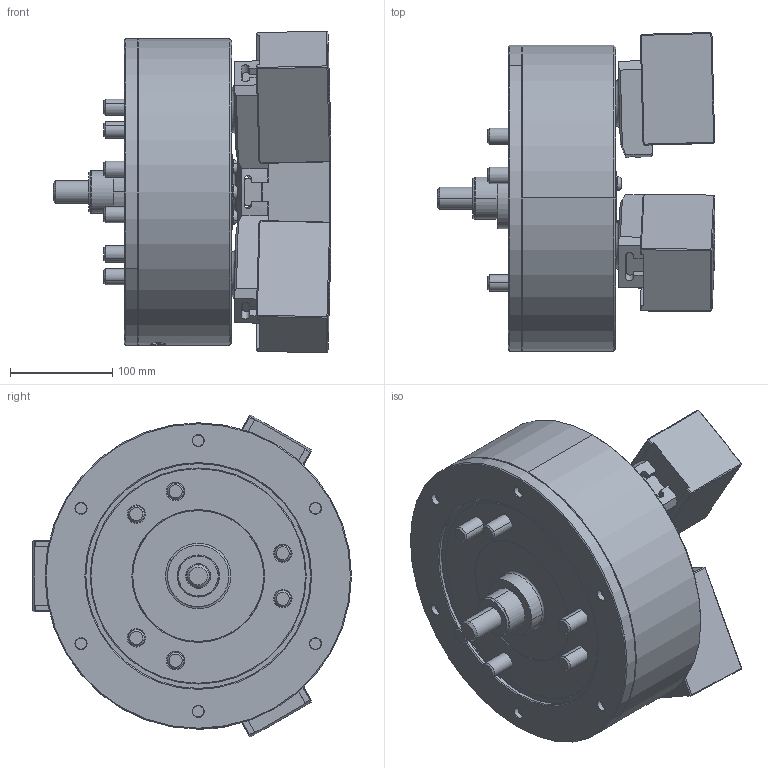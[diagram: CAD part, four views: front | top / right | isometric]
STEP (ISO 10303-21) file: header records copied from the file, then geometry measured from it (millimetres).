
FILE_DESCRIPTION (( 'STEP AP214' ), '1' );
FILE_NAME ('PW-12_OC_ID.STEP', '2019-10-08T06:48:09', ( '' ), ( '' ), 'SwSTEP 2.0', 'SolidWorks 2017', '' );
FILE_SCHEMA (( 'AUTOMOTIVE_DESIGN' ));
Length unit declared in the file: millimetre
Products named in the file (5): 結合_ID; 0030116025; 61P420193; 61P323264; PW-12_OC_ID
Assembly tree (13 placements, depth 2):
  PW-12_OC_ID
    61P323264  x3
    61P420193  x3
    0030116025  x6
    結合_ID
Bounding box: 271.64 x 312.2 x 314.99 mm (x, y, z)
Volume: 9038081.1 mm3; surface area: 608755.2 mm2
Topology: 13 solids, 14 shells, 1755 faces, 4243 edges, 2638 vertices
Faces by surface type: plane 903, cone 326, cylinder 281, bspline 185, torus 60
Entity records: 51456 total; most frequent: CARTESIAN_POINT 18062, ORIENTED_EDGE 7162, DIRECTION 6285, EDGE_CURVE 3581, VERTEX_POINT 2263, AXIS2_PLACEMENT_3D 2135, LINE 2015, VECTOR 2015
